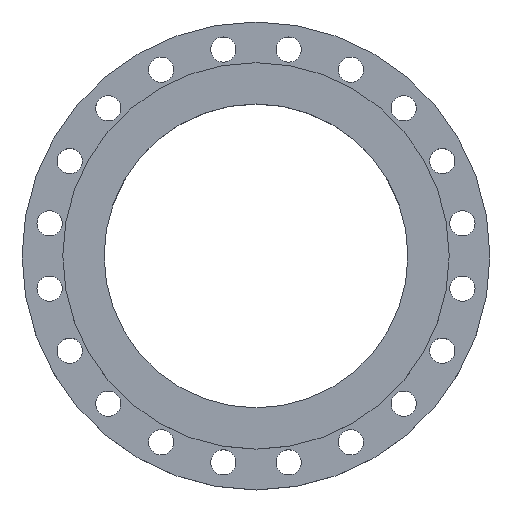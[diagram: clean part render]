
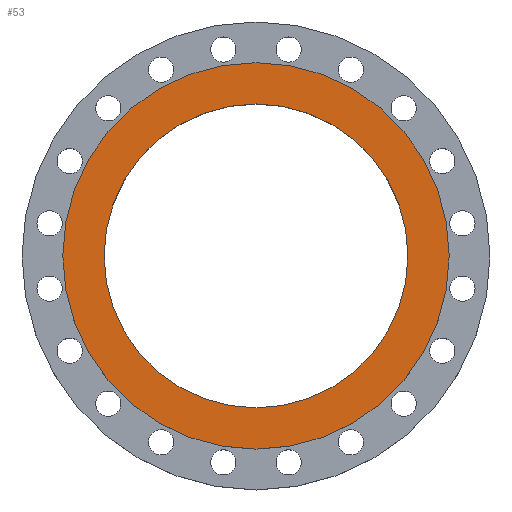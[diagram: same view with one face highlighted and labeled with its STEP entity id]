
A CAD part, top view. The second image highlights one B-rep face of the part: STEP entity #53.
In plain terms, the highlighted planar face has unit normal (0, 0, 1).
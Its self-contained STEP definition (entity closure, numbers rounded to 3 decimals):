
#32 = DIRECTION ( 'NONE',  ( 0., 0., 1. ) ) ;
#33 = DIRECTION ( 'NONE',  ( 1., 0., 0. ) ) ;
#41 = CARTESIAN_POINT ( 'NONE',  ( 0., 0., 54. ) ) ;
#53 = ADVANCED_FACE ( 'NONE', ( #929, #927 ), #924, .T. ) ;
#92 = CARTESIAN_POINT ( 'NONE',  ( 289., 0., 54. ) ) ;
#95 = EDGE_CURVE ( 'NONE', #950, #1474, #194, .T. ) ;
#125 = AXIS2_PLACEMENT_3D ( 'NONE', #922, #918, #917 ) ;
#194 = CIRCLE ( 'NONE', #223, 289. ) ;
#223 = AXIS2_PLACEMENT_3D ( 'NONE', #910, #907, #906 ) ;
#274 = DIRECTION ( 'NONE',  ( 1., 0., 0. ) ) ;
#276 = DIRECTION ( 'NONE',  ( 0., 0., 1. ) ) ;
#280 = CARTESIAN_POINT ( 'NONE',  ( 0., 0., 54. ) ) ;
#295 = AXIS2_PLACEMENT_3D ( 'NONE', #1550, #1546, #1545 ) ;
#505 = CARTESIAN_POINT ( 'NONE',  ( -367.5, 0., 54. ) ) ;
#513 = CARTESIAN_POINT ( 'NONE',  ( -289., 0., 54. ) ) ;
#906 = DIRECTION ( 'NONE',  ( 1., 0., 0. ) ) ;
#907 = DIRECTION ( 'NONE',  ( 0., 0., 1. ) ) ;
#910 = CARTESIAN_POINT ( 'NONE',  ( 0., 0., 54. ) ) ;
#917 = DIRECTION ( 'NONE',  ( 1., 0., 0. ) ) ;
#918 = DIRECTION ( 'NONE',  ( 0., 0., 1. ) ) ;
#922 = CARTESIAN_POINT ( 'NONE',  ( 289., 0., 54. ) ) ;
#924 = PLANE ( 'NONE',  #125 ) ;
#927 = FACE_BOUND ( 'NONE', #1219, .T. ) ;
#929 = FACE_OUTER_BOUND ( 'NONE', #1195, .T. ) ;
#950 = VERTEX_POINT ( 'NONE', #513 ) ;
#969 = VERTEX_POINT ( 'NONE', #505 ) ;
#1111 = CARTESIAN_POINT ( 'NONE',  ( 367.5, 0., 54. ) ) ;
#1195 = EDGE_LOOP ( 'NONE', ( #1638, #1637 ) ) ;
#1219 = EDGE_LOOP ( 'NONE', ( #1538, #1441 ) ) ;
#1315 = EDGE_CURVE ( 'NONE', #1799, #969, #1736, .T. ) ;
#1379 = AXIS2_PLACEMENT_3D ( 'NONE', #41, #32, #33 ) ;
#1441 = ORIENTED_EDGE ( 'NONE', *, *, #95, .F. ) ;
#1474 = VERTEX_POINT ( 'NONE', #92 ) ;
#1538 = ORIENTED_EDGE ( 'NONE', *, *, #1540, .F. ) ;
#1540 = EDGE_CURVE ( 'NONE', #1474, #950, #1939, .T. ) ;
#1545 = DIRECTION ( 'NONE',  ( 1., 0., 0. ) ) ;
#1546 = DIRECTION ( 'NONE',  ( 0., 0., 1. ) ) ;
#1550 = CARTESIAN_POINT ( 'NONE',  ( 0., 0., 54. ) ) ;
#1637 = ORIENTED_EDGE ( 'NONE', *, *, #1983, .T. ) ;
#1638 = ORIENTED_EDGE ( 'NONE', *, *, #1315, .T. ) ;
#1736 = CIRCLE ( 'NONE', #1738, 367.5 ) ;
#1738 = AXIS2_PLACEMENT_3D ( 'NONE', #280, #276, #274 ) ;
#1799 = VERTEX_POINT ( 'NONE', #1111 ) ;
#1939 = CIRCLE ( 'NONE', #1379, 289. ) ;
#1983 = EDGE_CURVE ( 'NONE', #969, #1799, #2039, .T. ) ;
#2039 = CIRCLE ( 'NONE', #295, 367.5 ) ;
